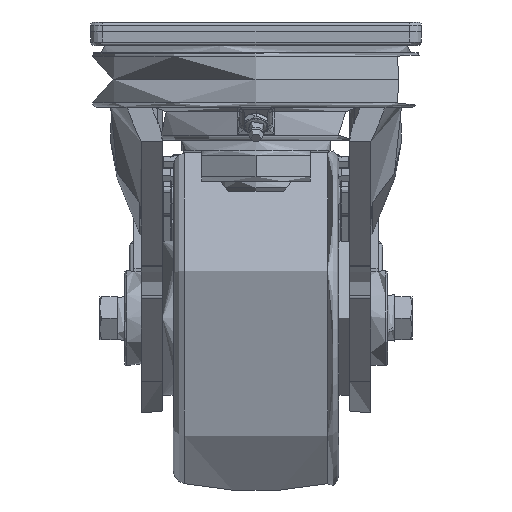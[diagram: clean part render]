
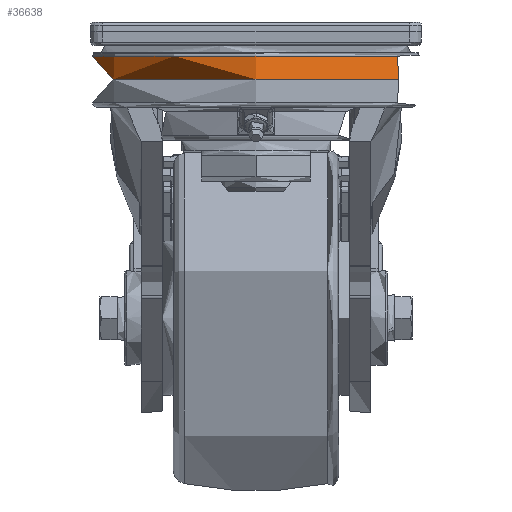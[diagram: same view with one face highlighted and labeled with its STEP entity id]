
A CAD part, left-side view. The second image highlights one B-rep face of the part: STEP entity #36638.
In plain terms, the highlighted conical face has half-angle 3 degrees and reference radius 69.242 mm.
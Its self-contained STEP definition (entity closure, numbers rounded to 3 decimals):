
#259=CONICAL_SURFACE('',#38944,69.242,0.052);
#4162=LINE('',#63481,#7177);
#7177=VECTOR('',#45068,69.242);
#9991=FACE_OUTER_BOUND('',#12157,.T.);
#12157=EDGE_LOOP('',(#30131,#30132,#30133,#30134,#30135,#30136,#30137));
#13682=CIRCLE('',#38940,68.984);
#13683=CIRCLE('',#38941,68.984);
#13684=CIRCLE('',#38942,68.984);
#13686=CIRCLE('',#38945,69.5);
#13687=CIRCLE('',#38946,69.5);
#16469=VERTEX_POINT('',#63469);
#16470=VERTEX_POINT('',#63470);
#16471=VERTEX_POINT('',#63472);
#16472=VERTEX_POINT('',#63477);
#16473=VERTEX_POINT('',#63478);
#21240=EDGE_CURVE('',#16469,#16470,#13682,.T.);
#21241=EDGE_CURVE('',#16471,#16469,#13683,.T.);
#21242=EDGE_CURVE('',#16470,#16471,#13684,.T.);
#21244=EDGE_CURVE('',#16472,#16473,#13686,.T.);
#21245=EDGE_CURVE('',#16473,#16472,#13687,.T.);
#21246=EDGE_CURVE('',#16473,#16471,#4162,.T.);
#30131=ORIENTED_EDGE('',*,*,#21244,.F.);
#30132=ORIENTED_EDGE('',*,*,#21245,.F.);
#30133=ORIENTED_EDGE('',*,*,#21246,.T.);
#30134=ORIENTED_EDGE('',*,*,#21241,.T.);
#30135=ORIENTED_EDGE('',*,*,#21240,.T.);
#30136=ORIENTED_EDGE('',*,*,#21242,.T.);
#30137=ORIENTED_EDGE('',*,*,#21246,.F.);
#36638=ADVANCED_FACE('',(#9991),#259,.T.);
#38940=AXIS2_PLACEMENT_3D('',#63471,#45054,#45055);
#38941=AXIS2_PLACEMENT_3D('',#63473,#45056,#45057);
#38942=AXIS2_PLACEMENT_3D('',#63474,#45058,#45059);
#38944=AXIS2_PLACEMENT_3D('',#63476,#45062,#45063);
#38945=AXIS2_PLACEMENT_3D('',#63479,#45064,#45065);
#38946=AXIS2_PLACEMENT_3D('',#63480,#45066,#45067);
#45054=DIRECTION('center_axis',(0.,0.,
-1.));
#45055=DIRECTION('ref_axis',(-1.,0.,0.));
#45056=DIRECTION('center_axis',(0.,0.,
-1.));
#45057=DIRECTION('ref_axis',(-1.,0.,0.));
#45058=DIRECTION('center_axis',(0.,0.,
-1.));
#45059=DIRECTION('ref_axis',(-1.,0.,0.));
#45062=DIRECTION('center_axis',(0.,0.,
-1.));
#45063=DIRECTION('ref_axis',(-1.,0.,0.));
#45064=DIRECTION('center_axis',(0.,0.,
-1.));
#45065=DIRECTION('ref_axis',(-1.,0.,0.));
#45066=DIRECTION('center_axis',(0.,0.,
-1.));
#45067=DIRECTION('ref_axis',(-1.,0.,0.));
#45068=DIRECTION('',(-0.052,0.,0.999));
#63469=CARTESIAN_POINT('',(-68.984,0.,-1.395));
#63470=CARTESIAN_POINT('',(0.,68.984,-1.395));
#63471=CARTESIAN_POINT('Origin',(0.,0.,
-1.395));
#63472=CARTESIAN_POINT('',(68.984,0.,-1.395));
#63473=CARTESIAN_POINT('Origin',(0.,0.,
-1.395));
#63474=CARTESIAN_POINT('Origin',(0.,0.,
-1.395));
#63476=CARTESIAN_POINT('Origin',(0.,0.,
-6.323));
#63477=CARTESIAN_POINT('',(-69.5,0.,-11.25));
#63478=CARTESIAN_POINT('',(69.5,0.,-11.25));
#63479=CARTESIAN_POINT('Origin',(0.,0.,
-11.25));
#63480=CARTESIAN_POINT('Origin',(0.,0.,
-11.25));
#63481=CARTESIAN_POINT('',(69.242,0.,-6.323));
